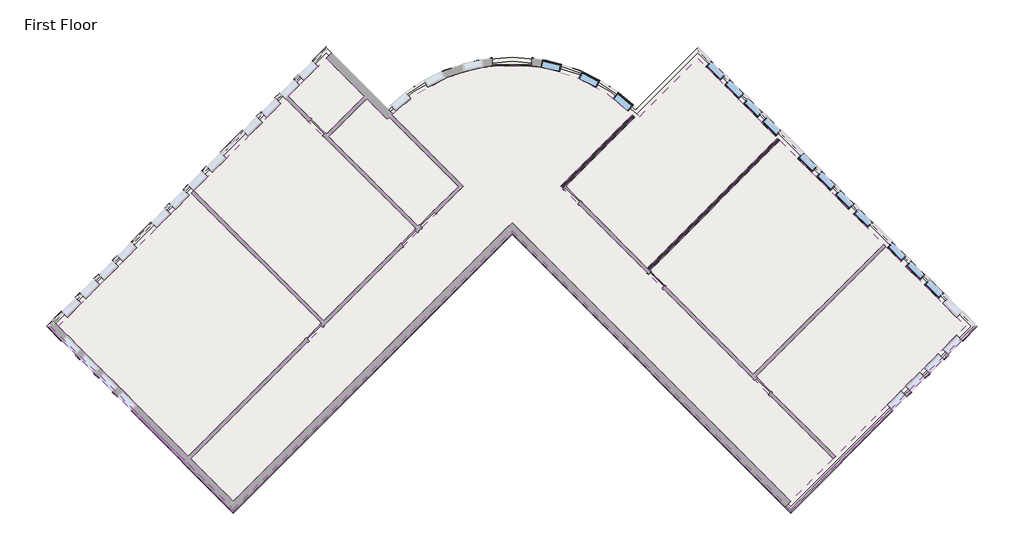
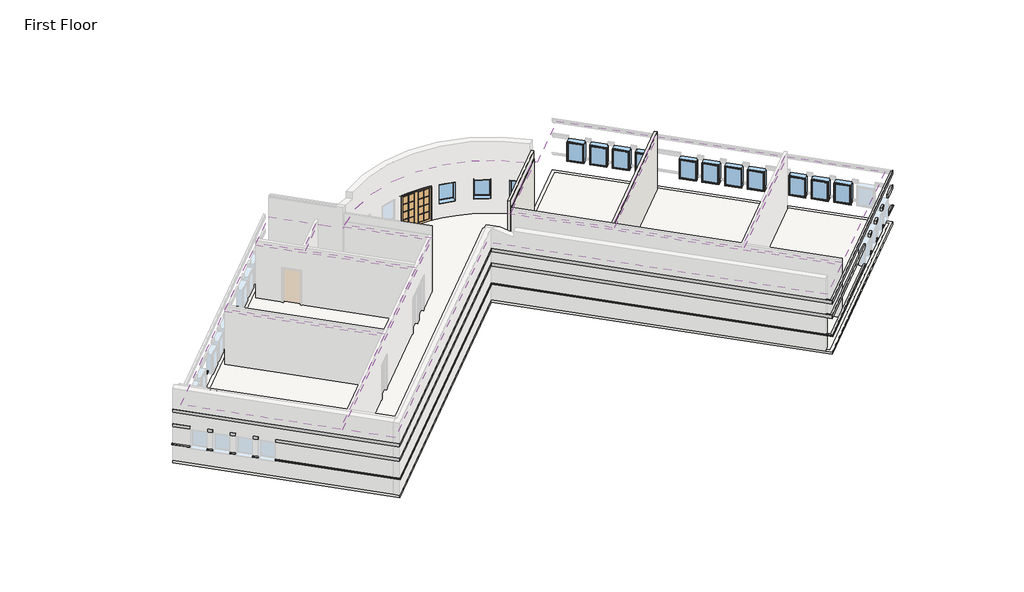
# One storey, part 3 of 4: 14 windows, 13 proxies, 8 coverings, 2 doors, 2 slabs, 2 walls.
"""IFC4 building model written with IfcOpenShell, lengths in millimetres."""

from ifc_helpers import new_model, si_unit, point, frame, frame_2d, origin, origin_with_axes, place, context, project, spatial, polyline, circle_curve, trimmed, segment, composite_curve, outline, extrude, faceted_brep, transform, mapped, element, save
from ifc_brep_helpers import plane_surface, cylinder_surface, advanced_brep
from components import door_0a477ef8, door_5f5b55da, window_15c49d37, window_0e2fc6ce

model = new_model("IFC4")

# Units and contexts
model_context = context("Model", 3, world=origin())
ifc_project = project(units=[si_unit("LENGTHUNIT", "METRE", prefix="MILLI")], contexts=[model_context])

# Site, building, storey
site = spatial("IfcSite", under=ifc_project)
building = spatial("IfcBuilding", under=site)
storey = spatial("IfcBuildingStorey", under=building, Name="First Floor", Elevation=0.0)

# Proxies
placement = place(None, origin())
element("IfcBuildingElementProxy", 1, Name="Wall Sweeps", at=placement, inside=storey, context=model_context, shape_type="Brep", body=[
    faceted_brep([(18554.3726125, -1357.9895101, 1085.85), (18684.5863263, -1357.9895101, 1085.85), (18733.9777349, -1357.9895101, 1041.4), (18733.9777349, -1357.9895101, 1016.0), (18554.3726125, -1357.9895101, 1016.0), (17956.0630484, -1956.2990742, 1085.85), (17956.0630484, -1956.2990742, 1016.0), (18021.1699053, -2021.405931, 1016.0), (18045.8656096, -2046.1016354, 1016.0), (18045.8656096, -2046.1016354, 1041.4), (18021.1699053, -2021.405931, 1085.85), (18370.277362, -1542.0847606, 1085.85), (18370.277362, -1542.0847606, 1016.0)], [[[0, 1, 2, 3, 4]], [[5, 6, 7, 8, 9, 10]], [[1, 0, 11, 5, 10]], [[2, 1, 10, 9]], [[3, 2, 9, 8]], [[4, 3, 8, 7, 6, 12]], [[0, 4, 12, 6, 5, 11]]]),
    faceted_brep([(17309.4846077, -2602.8775149, 1085.85), (17374.5914646, -2667.9843718, 1085.85), (17399.2871689, -2692.6800761, 1041.4), (17399.2871689, -2692.6800761, 1016.0), (17374.5914646, -2667.9843718, 1016.0), (17309.4846077, -2602.8775149, 1016.0), (17093.9584608, -2818.4036618, 1085.85), (17093.9584608, -2818.4036618, 1016.0), (17159.0653177, -2883.5105187, 1016.0), (17183.761022, -2908.206223, 1016.0), (17183.761022, -2908.206223, 1041.4), (17159.0653177, -2883.5105187, 1085.85)], [[[0, 1, 2, 3, 4, 5]], [[6, 7, 8, 9, 10, 11]], [[1, 0, 6, 11]], [[2, 1, 11, 10]], [[3, 2, 10, 9]], [[5, 4, 3, 9, 8, 7]], [[0, 5, 7, 6]]]),
    faceted_brep([(16447.3800201, -3464.9821025, 1085.85), (16512.486877, -3530.0889594, 1085.85), (16537.1825813, -3554.7846637, 1041.4), (16537.1825813, -3554.7846637, 1016.0), (16512.486877, -3530.0889594, 1016.0), (16447.3800201, -3464.9821025, 1016.0), (16231.8538732, -3680.5082494, 1085.85), (16231.8538732, -3680.5082494, 1016.0), (16296.9607301, -3745.6151063, 1016.0), (16321.6564344, -3770.3108106, 1016.0), (16321.6564344, -3770.3108106, 1041.4), (16296.9607301, -3745.6151063, 1085.85)], [[[0, 1, 2, 3, 4, 5]], [[6, 7, 8, 9, 10, 11]], [[1, 0, 6, 11]], [[2, 1, 11, 10]], [[3, 2, 10, 9]], [[5, 4, 3, 9, 8, 7]], [[0, 5, 7, 6]]]),
    faceted_brep([(15585.2754325, -4327.0866901, 1085.85), (15650.3822894, -4392.193547, 1085.85), (15675.0779937, -4416.8892513, 1041.4), (15675.0779937, -4416.8892513, 1016.0), (15650.3822894, -4392.193547, 1016.0), (15585.2754325, -4327.0866901, 1016.0), (15369.7492856, -4542.612837, 1085.85), (15369.7492856, -4542.612837, 1016.0), (15434.8561424, -4607.7196939, 1016.0), (15459.5518468, -4632.4153982, 1016.0), (15459.5518468, -4632.4153982, 1041.4), (15434.8561424, -4607.7196939, 1085.85)], [[[0, 1, 2, 3, 4, 5]], [[6, 7, 8, 9, 10, 11]], [[1, 0, 6, 11]], [[2, 1, 11, 10]], [[3, 2, 10, 9]], [[5, 4, 3, 9, 8, 7]], [[0, 5, 7, 6]]]),
    faceted_brep([(14723.1708449, -5189.1912777, 1085.85), (14788.2777017, -5254.2981346, 1085.85), (14812.9734061, -5278.993839, 1041.4), (14812.9734061, -5278.993839, 1016.0), (14788.2777017, -5254.2981346, 1016.0), (14723.1708449, -5189.1912777, 1016.0), (10063.54045, -9848.8216726, 1085.85), (10063.54045, -9848.8216726, 1016.0), (10063.54045, -10028.426795, 1016.0), (10063.54045, -10028.426795, 1041.4), (10063.54045, -9979.0353863, 1085.85)], [[[0, 1, 2, 3, 4, 5]], [[6, 7, 8, 9, 10]], [[1, 0, 6, 10]], [[2, 1, 10, 9]], [[3, 2, 9, 8]], [[5, 4, 3, 8, 7]], [[0, 5, 7, 6]]]),
])
element("IfcBuildingElementProxy", 2, Name="Wall Sweeps", at=placement, inside=storey, context=model_context, shape_type="Brep", body=[
    faceted_brep([(18684.5863263, -1357.9895101, 2336.8), (18684.5863263, -1357.9895101, 2133.6), (18554.3726125, -1357.9895101, 2133.6), (18554.3726125, -1357.9895101, 2336.8), (18021.1699053, -2021.405931, 2336.8), (17956.0630484, -1956.2990742, 2336.8), (17956.0630484, -1956.2990742, 2133.6), (18021.1699053, -2021.405931, 2133.6), (18435.3842189, -1607.1916175, 2336.8), (18435.3842189, -1607.1916175, 2133.6), (18370.277362, -1542.0847606, 2133.6), (18370.277362, -1542.0847606, 2336.8)], [[[0, 1, 2, 3]], [[4, 5, 6, 7]], [[1, 0, 8, 4, 7, 9]], [[2, 1, 9, 7, 6, 10]], [[3, 2, 10, 6, 5, 11]], [[0, 3, 11, 5, 4, 8]]]),
    faceted_brep([(17374.5914646, -2667.9843718, 2336.8), (17374.5914646, -2667.9843718, 2133.6), (17309.4846077, -2602.8775149, 2133.6), (17309.4846077, -2602.8775149, 2336.8), (17159.0653177, -2883.5105187, 2336.8), (17093.9584608, -2818.4036618, 2336.8), (17093.9584608, -2818.4036618, 2133.6), (17159.0653177, -2883.5105187, 2133.6)], [[[0, 1, 2, 3]], [[4, 5, 6, 7]], [[1, 0, 4, 7]], [[2, 1, 7, 6]], [[3, 2, 6, 5]], [[0, 3, 5, 4]]]),
    faceted_brep([(16512.486877, -3530.0889594, 2336.8), (16512.486877, -3530.0889594, 2133.6), (16447.3800201, -3464.9821025, 2133.6), (16447.3800201, -3464.9821025, 2336.8), (16296.9607301, -3745.6151063, 2336.8), (16231.8538732, -3680.5082494, 2336.8), (16231.8538732, -3680.5082494, 2133.6), (16296.9607301, -3745.6151063, 2133.6)], [[[0, 1, 2, 3]], [[4, 5, 6, 7]], [[1, 0, 4, 7]], [[2, 1, 7, 6]], [[3, 2, 6, 5]], [[0, 3, 5, 4]]]),
    faceted_brep([(15650.3822894, -4392.193547, 2336.8), (15650.3822894, -4392.193547, 2133.6), (15585.2754325, -4327.0866901, 2133.6), (15585.2754325, -4327.0866901, 2336.8), (15434.8561424, -4607.7196939, 2336.8), (15369.7492856, -4542.612837, 2336.8), (15369.7492856, -4542.612837, 2133.6), (15434.8561424, -4607.7196939, 2133.6)], [[[0, 1, 2, 3]], [[4, 5, 6, 7]], [[1, 0, 4, 7]], [[2, 1, 7, 6]], [[3, 2, 6, 5]], [[0, 3, 5, 4]]]),
    faceted_brep([(14788.2777017, -5254.2981346, 2336.8), (14788.2777017, -5254.2981346, 2133.6), (14723.1708449, -5189.1912777, 2133.6), (14723.1708449, -5189.1912777, 2336.8), (10063.54045, -9979.0353863, 2336.8), (10063.54045, -9848.8216726, 2336.8), (10063.54045, -9848.8216726, 2133.6), (10063.54045, -9979.0353863, 2133.6)], [[[0, 1, 2, 3]], [[4, 5, 6, 7]], [[1, 0, 4, 7]], [[2, 1, 7, 6]], [[3, 2, 6, 5]], [[0, 3, 5, 4]]]),
])
element("IfcBuildingElementProxy", 3, Name="Wall Sweeps", at=placement, inside=storey, context=model_context, shape_type="Brep", body=[
    faceted_brep([(18684.5863263, -1357.9895101, 3251.2), (18684.5863263, -1357.9895101, 3048.0), (18554.3726125, -1357.9895101, 3048.0), (18554.3726125, -1357.9895101, 3251.2), (10063.54045, -9979.0353863, 3251.2), (10063.54045, -9848.8216726, 3251.2), (10063.54045, -9848.8216726, 3048.0), (10063.54045, -9979.0353863, 3048.0), (18435.3842189, -1607.1916175, 3251.2), (18435.3842189, -1607.1916175, 3048.0), (18370.277362, -1542.0847606, 3048.0), (18370.277362, -1542.0847606, 3251.2)], [[[0, 1, 2, 3]], [[4, 5, 6, 7]], [[1, 0, 8, 4, 7, 9]], [[2, 1, 9, 7, 6, 10]], [[3, 2, 10, 6, 5, 11]], [[0, 3, 11, 5, 4, 8]]]),
])
element("IfcBuildingElementProxy", 4, Name="Wall Sweeps", at=placement, inside=storey, context=model_context, shape_type="Brep", body=[
    faceted_brep([(10063.54045, -9848.8216726, 1085.85), (10063.54045, -9979.0353863, 1085.85), (10063.54045, -10028.426795, 1041.4), (10063.54045, -10028.426795, 1016.0), (10063.54045, -9848.8216726, 1016.0), (-2868.0283643, 3082.7471418, 1085.85), (-2868.0283643, 3082.7471418, 1016.0), (-2868.0283643, 2903.1420194, 1016.0), (-2868.0283643, 2903.1420194, 1041.4), (-2868.0283643, 2952.533428, 1085.85), (9879.4451996, -9664.7264221, 1085.85), (9879.4451996, -9664.7264221, 1016.0)], [[[0, 1, 2, 3, 4]], [[5, 6, 7, 8, 9]], [[1, 0, 10, 5, 9]], [[2, 1, 9, 8]], [[3, 2, 8, 7]], [[4, 3, 7, 6, 11]], [[0, 4, 11, 6, 5, 10]]]),
])
element("IfcBuildingElementProxy", 5, Name="Wall Sweeps", at=placement, inside=storey, context=model_context, shape_type="Brep", body=[
    faceted_brep([(10063.54045, -9979.0353863, 2336.8), (10063.54045, -9979.0353863, 2133.6), (10063.54045, -9848.8216726, 2133.6), (10063.54045, -9848.8216726, 2336.8), (-2868.0283643, 2952.533428, 2336.8), (-2868.0283643, 3082.7471418, 2336.8), (-2868.0283643, 3082.7471418, 2133.6), (-2868.0283643, 2952.533428, 2133.6), (9814.3383427, -9729.833279, 2336.8), (9814.3383427, -9729.833279, 2133.6), (9879.4451996, -9664.7264221, 2133.6), (9879.4451996, -9664.7264221, 2336.8)], [[[0, 1, 2, 3]], [[4, 5, 6, 7]], [[1, 0, 8, 4, 7, 9]], [[2, 1, 9, 7, 6, 10]], [[3, 2, 10, 6, 5, 11]], [[0, 3, 11, 5, 4, 8]]]),
])
element("IfcBuildingElementProxy", 6, Name="Wall Sweeps", at=placement, inside=storey, context=model_context, shape_type="Brep", body=[
    faceted_brep([(10063.54045, -9979.0353863, 3251.2), (10063.54045, -9979.0353863, 3048.0), (10063.54045, -9848.8216726, 3048.0), (10063.54045, -9848.8216726, 3251.2), (-2868.0283643, 2952.533428, 3251.2), (-2868.0283643, 3082.7471418, 3251.2), (-2868.0283643, 3082.7471418, 3048.0), (-2868.0283643, 2952.533428, 3048.0), (9814.3383427, -9729.833279, 3251.2), (9814.3383427, -9729.833279, 3048.0), (9879.4451996, -9664.7264221, 3048.0), (9879.4451996, -9664.7264221, 3251.2)], [[[0, 1, 2, 3]], [[4, 5, 6, 7]], [[1, 0, 8, 4, 7, 9]], [[2, 1, 9, 7, 6, 10]], [[3, 2, 10, 6, 5, 11]], [[0, 3, 11, 5, 4, 8]]]),
])
element("IfcBuildingElementProxy", 7, Name="Wall Sweeps", at=placement, inside=storey, context=model_context, shape_type="Brep", body=[
    faceted_brep([(-2868.0283643, 3082.7471418, 1085.85), (-2868.0283643, 2952.533428, 1085.85), (-2868.0283643, 2903.1420194, 1041.4), (-2868.0283643, 2903.1420194, 1016.0), (-2868.0283643, 3082.7471418, 1016.0), (-15799.5971786, -9848.8216726, 1085.85), (-15799.5971786, -9848.8216726, 1016.0), (-15799.5971786, -10028.426795, 1016.0), (-15799.5971786, -10028.426795, 1041.4), (-15799.5971786, -9979.0353863, 1085.85), (-2933.1352212, 3017.6402849, 1085.85), (-2933.1352212, 3017.6402849, 1016.0)], [[[0, 1, 2, 3, 4]], [[5, 6, 7, 8, 9]], [[1, 0, 10, 5, 9]], [[2, 1, 9, 8]], [[3, 2, 8, 7]], [[4, 3, 7, 6, 11]], [[0, 4, 11, 6, 5, 10]]]),
])
element("IfcBuildingElementProxy", 8, Name="Wall Sweeps", at=placement, inside=storey, context=model_context, shape_type="Brep", body=[
    faceted_brep([(-2868.0283643, 2952.533428, 2336.8), (-2868.0283643, 2952.533428, 2133.6), (-2868.0283643, 3082.7471418, 2133.6), (-2868.0283643, 3082.7471418, 2336.8), (-15799.5971786, -9979.0353863, 2336.8), (-15799.5971786, -9848.8216726, 2336.8), (-15799.5971786, -9848.8216726, 2133.6), (-15799.5971786, -9979.0353863, 2133.6), (-2933.1352212, 3017.6402849, 2133.6), (-2933.1352212, 3017.6402849, 2336.8)], [[[0, 1, 2, 3]], [[4, 5, 6, 7]], [[1, 0, 4, 7]], [[2, 1, 7, 6, 8]], [[3, 2, 8, 6, 5, 9]], [[0, 3, 9, 5, 4]]]),
])
element("IfcBuildingElementProxy", 9, Name="Wall Sweeps", at=placement, inside=storey, context=model_context, shape_type="Brep", body=[
    faceted_brep([(-2868.0283643, 2952.533428, 3251.2), (-2868.0283643, 2952.533428, 3048.0), (-2868.0283643, 3082.7471418, 3048.0), (-2868.0283643, 3082.7471418, 3251.2), (-15799.5971786, -9979.0353863, 3251.2), (-15799.5971786, -9848.8216726, 3251.2), (-15799.5971786, -9848.8216726, 3048.0), (-15799.5971786, -9979.0353863, 3048.0), (-2933.1352212, 3017.6402849, 3048.0), (-2933.1352212, 3017.6402849, 3251.2)], [[[0, 1, 2, 3]], [[4, 5, 6, 7]], [[1, 0, 4, 7]], [[2, 1, 7, 6, 8]], [[3, 2, 8, 6, 5, 9]], [[0, 3, 9, 5, 4]]]),
])
element("IfcBuildingElementProxy", 10, Name="Wall Sweeps", at=placement, inside=storey, context=model_context, shape_type="Brep", body=[
    faceted_brep([(-15799.5971786, -9848.8216726, 1085.85), (-15799.5971786, -9979.0353863, 1085.85), (-15799.5971786, -10028.426795, 1041.4), (-15799.5971786, -10028.426795, 1016.0), (-15799.5971786, -9848.8216726, 1016.0), (-20459.2275735, -5189.1912777, 1085.85), (-20459.2275735, -5189.1912777, 1016.0), (-20524.3344303, -5254.2981346, 1016.0), (-20549.0301347, -5278.993839, 1016.0), (-20549.0301347, -5278.993839, 1041.4), (-20524.3344303, -5254.2981346, 1085.85), (-15983.6924291, -9664.7264221, 1085.85), (-15983.6924291, -9664.7264221, 1016.0)], [[[0, 1, 2, 3, 4]], [[5, 6, 7, 8, 9, 10]], [[1, 0, 11, 5, 10]], [[2, 1, 10, 9]], [[3, 2, 9, 8]], [[4, 3, 8, 7, 6, 12]], [[0, 4, 12, 6, 5, 11]]]),
    faceted_brep([(-21105.8060142, -4542.612837, 1085.85), (-21170.9128711, -4607.7196939, 1085.85), (-21195.6085754, -4632.4153982, 1041.4), (-21195.6085754, -4632.4153982, 1016.0), (-21170.9128711, -4607.7196939, 1016.0), (-21105.8060142, -4542.612837, 1016.0), (-21321.3321611, -4327.0866901, 1085.85), (-21321.3321611, -4327.0866901, 1016.0), (-21386.439018, -4392.193547, 1016.0), (-21411.1347223, -4416.8892513, 1016.0), (-21411.1347223, -4416.8892513, 1041.4), (-21386.439018, -4392.193547, 1085.85)], [[[0, 1, 2, 3, 4, 5]], [[6, 7, 8, 9, 10, 11]], [[1, 0, 6, 11]], [[2, 1, 11, 10]], [[3, 2, 10, 9]], [[5, 4, 3, 9, 8, 7]], [[0, 5, 7, 6]]]),
    faceted_brep([(-21967.9106018, -3680.5082494, 1085.85), (-22033.0174587, -3745.6151063, 1085.85), (-22057.713163, -3770.3108106, 1041.4), (-22057.713163, -3770.3108106, 1016.0), (-22033.0174587, -3745.6151063, 1016.0), (-21967.9106018, -3680.5082494, 1016.0), (-22183.4367487, -3464.9821025, 1085.85), (-22183.4367487, -3464.9821025, 1016.0), (-22248.5436056, -3530.0889594, 1016.0), (-22273.2393099, -3554.7846637, 1016.0), (-22273.2393099, -3554.7846637, 1041.4), (-22248.5436056, -3530.0889594, 1085.85)], [[[0, 1, 2, 3, 4, 5]], [[6, 7, 8, 9, 10, 11]], [[1, 0, 6, 11]], [[2, 1, 11, 10]], [[3, 2, 10, 9]], [[5, 4, 3, 9, 8, 7]], [[0, 5, 7, 6]]]),
    faceted_brep([(-22830.0151894, -2818.4036618, 1085.85), (-22895.1220463, -2883.5105187, 1085.85), (-22919.8177506, -2908.206223, 1041.4), (-22919.8177506, -2908.206223, 1016.0), (-22895.1220463, -2883.5105187, 1016.0), (-22830.0151894, -2818.4036618, 1016.0), (-23045.5413363, -2602.8775149, 1085.85), (-23045.5413363, -2602.8775149, 1016.0), (-23110.6481932, -2667.9843718, 1016.0), (-23135.3438975, -2692.6800761, 1016.0), (-23135.3438975, -2692.6800761, 1041.4), (-23110.6481932, -2667.9843718, 1085.85)], [[[0, 1, 2, 3, 4, 5]], [[6, 7, 8, 9, 10, 11]], [[1, 0, 6, 11]], [[2, 1, 11, 10]], [[3, 2, 10, 9]], [[5, 4, 3, 9, 8, 7]], [[0, 5, 7, 6]]]),
    faceted_brep([(-23692.119777, -1956.2990742, 1085.85), (-23757.2266339, -2021.405931, 1085.85), (-23781.9223383, -2046.1016354, 1041.4), (-23781.9223383, -2046.1016354, 1016.0), (-23757.2266339, -2021.405931, 1016.0), (-23692.119777, -1956.2990742, 1016.0), (-24290.4293411, -1357.9895101, 1085.85), (-24290.4293411, -1357.9895101, 1016.0), (-24470.0344635, -1357.9895101, 1016.0), (-24470.0344635, -1357.9895101, 1041.4), (-24420.6430549, -1357.9895101, 1085.85)], [[[0, 1, 2, 3, 4, 5]], [[6, 7, 8, 9, 10]], [[1, 0, 6, 10]], [[2, 1, 10, 9]], [[3, 2, 9, 8]], [[5, 4, 3, 8, 7]], [[0, 5, 7, 6]]]),
])
element("IfcBuildingElementProxy", 11, Name="Wall Sweeps", at=placement, inside=storey, context=model_context, shape_type="Brep", body=[
    faceted_brep([(-15799.5971786, -9979.0353863, 2336.8), (-15799.5971786, -9979.0353863, 2133.6), (-15799.5971786, -9848.8216726, 2133.6), (-15799.5971786, -9848.8216726, 2336.8), (-20524.3344303, -5254.2981346, 2336.8), (-20459.2275735, -5189.1912777, 2336.8), (-20459.2275735, -5189.1912777, 2133.6), (-20524.3344303, -5254.2981346, 2133.6), (-16048.799286, -9729.833279, 2336.8), (-16048.799286, -9729.833279, 2133.6), (-15983.6924291, -9664.7264221, 2133.6), (-15983.6924291, -9664.7264221, 2336.8)], [[[0, 1, 2, 3]], [[4, 5, 6, 7]], [[1, 0, 8, 4, 7, 9]], [[2, 1, 9, 7, 6, 10]], [[3, 2, 10, 6, 5, 11]], [[0, 3, 11, 5, 4, 8]]]),
    faceted_brep([(-21170.9128711, -4607.7196939, 2336.8), (-21170.9128711, -4607.7196939, 2133.6), (-21105.8060142, -4542.612837, 2133.6), (-21105.8060142, -4542.612837, 2336.8), (-21386.439018, -4392.193547, 2336.8), (-21321.3321611, -4327.0866901, 2336.8), (-21321.3321611, -4327.0866901, 2133.6), (-21386.439018, -4392.193547, 2133.6)], [[[0, 1, 2, 3]], [[4, 5, 6, 7]], [[1, 0, 4, 7]], [[2, 1, 7, 6]], [[3, 2, 6, 5]], [[0, 3, 5, 4]]]),
    faceted_brep([(-22033.0174587, -3745.6151063, 2336.8), (-22033.0174587, -3745.6151063, 2133.6), (-21967.9106018, -3680.5082494, 2133.6), (-21967.9106018, -3680.5082494, 2336.8), (-22248.5436056, -3530.0889594, 2336.8), (-22183.4367487, -3464.9821025, 2336.8), (-22183.4367487, -3464.9821025, 2133.6), (-22248.5436056, -3530.0889594, 2133.6)], [[[0, 1, 2, 3]], [[4, 5, 6, 7]], [[1, 0, 4, 7]], [[2, 1, 7, 6]], [[3, 2, 6, 5]], [[0, 3, 5, 4]]]),
    faceted_brep([(-22895.1220463, -2883.5105187, 2336.8), (-22895.1220463, -2883.5105187, 2133.6), (-22830.0151894, -2818.4036618, 2133.6), (-22830.0151894, -2818.4036618, 2336.8), (-23110.6481932, -2667.9843718, 2336.8), (-23045.5413363, -2602.8775149, 2336.8), (-23045.5413363, -2602.8775149, 2133.6), (-23110.6481932, -2667.9843718, 2133.6)], [[[0, 1, 2, 3]], [[4, 5, 6, 7]], [[1, 0, 4, 7]], [[2, 1, 7, 6]], [[3, 2, 6, 5]], [[0, 3, 5, 4]]]),
    faceted_brep([(-23757.2266339, -2021.405931, 2336.8), (-23757.2266339, -2021.405931, 2133.6), (-23692.119777, -1956.2990742, 2133.6), (-23692.119777, -1956.2990742, 2336.8), (-24420.6430549, -1357.9895101, 2336.8), (-24290.4293411, -1357.9895101, 2336.8), (-24290.4293411, -1357.9895101, 2133.6), (-24420.6430549, -1357.9895101, 2133.6)], [[[0, 1, 2, 3]], [[4, 5, 6, 7]], [[1, 0, 4, 7]], [[2, 1, 7, 6]], [[3, 2, 6, 5]], [[0, 3, 5, 4]]]),
])
element("IfcBuildingElementProxy", 12, Name="Wall Sweeps", at=placement, inside=storey, context=model_context, shape_type="Brep", body=[
    faceted_brep([(-15799.5971786, -9979.0353863, 3251.2), (-15799.5971786, -9979.0353863, 3048.0), (-15799.5971786, -9848.8216726, 3048.0), (-15799.5971786, -9848.8216726, 3251.2), (-24420.6430549, -1357.9895101, 3251.2), (-24290.4293411, -1357.9895101, 3251.2), (-24290.4293411, -1357.9895101, 3048.0), (-24420.6430549, -1357.9895101, 3048.0), (-16048.799286, -9729.833279, 3251.2), (-16048.799286, -9729.833279, 3048.0), (-15983.6924291, -9664.7264221, 3048.0), (-15983.6924291, -9664.7264221, 3251.2)], [[[0, 1, 2, 3]], [[4, 5, 6, 7]], [[1, 0, 8, 4, 7, 9]], [[2, 1, 9, 7, 6, 10]], [[3, 2, 10, 6, 5, 11]], [[0, 3, 11, 5, 4, 8]]]),
])
element("IfcBuildingElementProxy", 13, Name="Wall Sweeps", at=placement, inside=storey, context=model_context, shape_type="Brep", body=[
    faceted_brep([(-24290.4293411, -1357.9895101, 1085.85), (-24420.6430549, -1357.9895101, 1085.85), (-24470.0344635, -1357.9895101, 1041.4), (-24470.0344635, -1357.9895101, 1016.0), (-24290.4293411, -1357.9895101, 1016.0), (-23692.119777, -759.679946, 1085.85), (-23692.119777, -759.679946, 1016.0), (-23757.2266339, -694.5730891, 1016.0), (-23781.9223383, -669.8773848, 1016.0), (-23781.9223383, -669.8773848, 1041.4), (-23757.2266339, -694.5730891, 1085.85), (-24106.3340906, -1173.8942596, 1085.85), (-24106.3340906, -1173.8942596, 1016.0)], [[[0, 1, 2, 3, 4]], [[5, 6, 7, 8, 9, 10]], [[1, 0, 11, 5, 10]], [[2, 1, 10, 9]], [[3, 2, 9, 8]], [[4, 3, 8, 7, 6, 12]], [[0, 4, 12, 6, 5, 11]]]),
    faceted_brep([(-23045.5413363, -113.1015053, 1085.85), (-23110.6481932, -47.9946484, 1085.85), (-23135.3438975, -23.2989441, 1041.4), (-23135.3438975, -23.2989441, 1016.0), (-23110.6481932, -47.9946484, 1016.0), (-23045.5413363, -113.1015053, 1016.0), (-22830.0151894, 102.4246416, 1085.85), (-22830.0151894, 102.4246416, 1016.0), (-22895.1220463, 167.5314985, 1016.0), (-22919.8177506, 192.2272028, 1016.0), (-22919.8177506, 192.2272028, 1041.4), (-22895.1220463, 167.5314985, 1085.85)], [[[0, 1, 2, 3, 4, 5]], [[6, 7, 8, 9, 10, 11]], [[1, 0, 6, 11]], [[2, 1, 11, 10]], [[3, 2, 10, 9]], [[5, 4, 3, 9, 8, 7]], [[0, 5, 7, 6]]]),
    faceted_brep([(-22183.4367487, 749.0030823, 1085.85), (-22248.5436056, 814.1099392, 1085.85), (-22273.2393099, 838.8056435, 1041.4), (-22273.2393099, 838.8056435, 1016.0), (-22248.5436056, 814.1099392, 1016.0), (-22183.4367487, 749.0030823, 1016.0), (-21967.9106018, 964.5292292, 1085.85), (-21967.9106018, 964.5292292, 1016.0), (-22033.0174587, 1029.6360861, 1016.0), (-22057.713163, 1054.3317904, 1016.0), (-22057.713163, 1054.3317904, 1041.4), (-22033.0174587, 1029.6360861, 1085.85)], [[[0, 1, 2, 3, 4, 5]], [[6, 7, 8, 9, 10, 11]], [[1, 0, 6, 11]], [[2, 1, 11, 10]], [[3, 2, 10, 9]], [[5, 4, 3, 9, 8, 7]], [[0, 5, 7, 6]]]),
    faceted_brep([(-21321.3321611, 1611.1076699, 1085.85), (-21386.439018, 1676.2145268, 1085.85), (-21411.1347223, 1700.9102311, 1041.4), (-21411.1347223, 1700.9102311, 1016.0), (-21386.439018, 1676.2145268, 1016.0), (-21321.3321611, 1611.1076699, 1016.0), (-21105.8060142, 1826.6338168, 1085.85), (-21105.8060142, 1826.6338168, 1016.0), (-21170.9128711, 1891.7406737, 1016.0), (-21195.6085754, 1916.4363781, 1016.0), (-21195.6085754, 1916.4363781, 1041.4), (-21170.9128711, 1891.7406737, 1085.85)], [[[0, 1, 2, 3, 4, 5]], [[6, 7, 8, 9, 10, 11]], [[1, 0, 6, 11]], [[2, 1, 11, 10]], [[3, 2, 10, 9]], [[5, 4, 3, 9, 8, 7]], [[0, 5, 7, 6]]]),
    faceted_brep([(-20459.2275735, 2473.2122576, 1085.85), (-20524.3344303, 2538.3191144, 1085.85), (-20549.0301347, 2563.0148188, 1041.4), (-20549.0301347, 2563.0148188, 1016.0), (-20524.3344303, 2538.3191144, 1016.0), (-20459.2275735, 2473.2122576, 1016.0), (-19543.7128733, 3388.7269578, 1085.85), (-19543.7128733, 3388.7269578, 1016.0), (-19608.8197301, 3453.8338146, 1016.0), (-19633.5154345, 3478.529519, 1016.0), (-19633.5154345, 3478.529519, 1041.4), (-19608.8197301, 3453.8338146, 1085.85)], [[[0, 1, 2, 3, 4, 5]], [[6, 7, 8, 9, 10, 11]], [[1, 0, 6, 11]], [[2, 1, 11, 10]], [[3, 2, 10, 9]], [[5, 4, 3, 9, 8, 7]], [[0, 5, 7, 6]]]),
    faceted_brep([(-18897.1344326, 4035.3053985, 1085.85), (-18962.2412894, 4100.4122553, 1085.85), (-18986.9369938, 4125.1079597, 1041.4), (-18986.9369938, 4125.1079597, 1016.0), (-18962.2412894, 4100.4122553, 1016.0), (-18897.1344326, 4035.3053985, 1016.0), (-18681.6082856, 4250.8315454, 1085.85), (-18681.6082856, 4250.8315454, 1016.0), (-18746.7151425, 4315.9384023, 1016.0), (-18771.4108469, 4340.6341066, 1016.0), (-18771.4108469, 4340.6341066, 1041.4), (-18746.7151425, 4315.9384023, 1085.85)], [[[0, 1, 2, 3, 4, 5]], [[6, 7, 8, 9, 10, 11]], [[1, 0, 6, 11]], [[2, 1, 11, 10]], [[3, 2, 10, 9]], [[5, 4, 3, 9, 8, 7]], [[0, 5, 7, 6]]]),
    faceted_brep([(-18035.0298449, 4897.4099861, 1085.85), (-18100.1367018, 4962.516843, 1085.85), (-18124.8324061, 4987.2125473, 1041.4), (-18124.8324061, 4987.2125473, 1016.0), (-18100.1367018, 4962.516843, 1016.0), (-18035.0298449, 4897.4099861, 1016.0), (-17819.503698, 5112.936133, 1085.85), (-17819.503698, 5112.936133, 1016.0), (-17884.6105549, 5178.0429899, 1016.0), (-17909.3062592, 5202.7386942, 1016.0), (-17909.3062592, 5202.7386942, 1041.4), (-17884.6105549, 5178.0429899, 1085.85)], [[[0, 1, 2, 3, 4, 5]], [[6, 7, 8, 9, 10, 11]], [[1, 0, 6, 11]], [[2, 1, 11, 10]], [[3, 2, 10, 9]], [[5, 4, 3, 9, 8, 7]], [[0, 5, 7, 6]]]),
    faceted_brep([(-17172.9252573, 5759.5145737, 1085.85), (-17238.0321142, 5824.6214306, 1085.85), (-17262.7278185, 5849.3171349, 1041.4), (-17262.7278185, 5849.3171349, 1016.0), (-17238.0321142, 5824.6214306, 1016.0), (-17172.9252573, 5759.5145737, 1016.0), (-16957.3991104, 5975.0407206, 1085.85), (-16957.3991104, 5975.0407206, 1016.0), (-17022.5059673, 6040.1475775, 1016.0), (-17047.2016716, 6064.8432818, 1016.0), (-17047.2016716, 6064.8432818, 1041.4), (-17022.5059673, 6040.1475775, 1085.85)], [[[0, 1, 2, 3, 4, 5]], [[6, 7, 8, 9, 10, 11]], [[1, 0, 6, 11]], [[2, 1, 11, 10]], [[3, 2, 10, 9]], [[5, 4, 3, 9, 8, 7]], [[0, 5, 7, 6]]]),
    faceted_brep([(-16310.8206697, 6621.6191613, 1085.85), (-16375.9275266, 6686.7260182, 1085.85), (-16400.6232309, 6711.4217225, 1041.4), (-16400.6232309, 6711.4217225, 1016.0), (-16375.9275266, 6686.7260182, 1016.0), (-16310.8206697, 6621.6191613, 1016.0), (-15286.3644832, 7646.0753478, 1085.85), (-15286.3644832, 7646.0753478, 1016.0), (-15351.4713401, 7711.1822047, 1016.0), (-15376.1670444, 7735.877909, 1016.0), (-15376.1670444, 7735.877909, 1041.4), (-15351.4713401, 7711.1822047, 1085.85)], [[[0, 1, 2, 3, 4, 5]], [[6, 7, 8, 9, 10, 11]], [[1, 0, 6, 11]], [[2, 1, 11, 10]], [[3, 2, 10, 9]], [[5, 4, 3, 9, 8, 7]], [[0, 5, 7, 6]]]),
    faceted_brep([(-14639.7860425, 8292.6537886, 1085.85), (-14704.8928993, 8357.7606454, 1085.85), (-14729.5886037, 8382.4563498, 1041.4), (-14729.5886037, 8382.4563498, 1016.0), (-14704.8928993, 8357.7606454, 1016.0), (-14639.7860425, 8292.6537886, 1016.0), (-14424.2598956, 8508.1799355, 1085.85), (-14424.2598956, 8508.1799355, 1016.0), (-14489.3667524, 8573.2867923, 1016.0), (-14514.0624568, 8597.9824967, 1016.0), (-14514.0624568, 8597.9824967, 1041.4), (-14489.3667524, 8573.2867923, 1085.85)], [[[0, 1, 2, 3, 4, 5]], [[6, 7, 8, 9, 10, 11]], [[1, 0, 6, 11]], [[2, 1, 11, 10]], [[3, 2, 10, 9]], [[5, 4, 3, 9, 8, 7]], [[0, 5, 7, 6]]]),
    faceted_brep([(-13777.6814548, 9154.7583762, 1085.85), (-13842.7883117, 9219.8652331, 1085.85), (-13867.4840161, 9244.5609374, 1041.4), (-13867.4840161, 9244.5609374, 1016.0), (-13842.7883117, 9219.8652331, 1016.0), (-13777.6814548, 9154.7583762, 1016.0), (-13562.1553079, 9370.2845231, 1085.85), (-13562.1553079, 9370.2845231, 1016.0), (-13627.2621648, 9435.39138, 1016.0), (-13651.9578691, 9460.0870843, 1016.0), (-13651.9578691, 9460.0870843, 1041.4), (-13627.2621648, 9435.39138, 1085.85)], [[[0, 1, 2, 3, 4, 5]], [[6, 7, 8, 9, 10, 11]], [[1, 0, 6, 11]], [[2, 1, 11, 10]], [[3, 2, 10, 9]], [[5, 4, 3, 9, 8, 7]], [[0, 5, 7, 6]]]),
    faceted_brep([(-12915.5768672, 10016.8629638, 1085.85), (-12980.6837241, 10081.9698207, 1085.85), (-13005.3794284, 10106.665525, 1041.4), (-13005.3794284, 10106.665525, 1016.0), (-12980.6837241, 10081.9698207, 1016.0), (-12915.5768672, 10016.8629638, 1016.0), (-12700.0507203, 10232.3891107, 1085.85), (-12700.0507203, 10232.3891107, 1016.0), (-12765.1575772, 10297.4959676, 1016.0), (-12789.8532815, 10322.1916719, 1016.0), (-12789.8532815, 10322.1916719, 1041.4), (-12765.1575772, 10297.4959676, 1085.85)], [[[0, 1, 2, 3, 4, 5]], [[6, 7, 8, 9, 10, 11]], [[1, 0, 6, 11]], [[2, 1, 11, 10]], [[3, 2, 10, 9]], [[5, 4, 3, 9, 8, 7]], [[0, 5, 7, 6]]]),
    faceted_brep([(-12053.4722796, 10878.9675514, 1085.85), (-12118.5791365, 10944.0744083, 1085.85), (-12143.2748408, 10968.7701126, 1041.4), (-12143.2748408, 10968.7701126, 1016.0), (-12118.5791365, 10944.0744083, 1016.0), (-12053.4722796, 10878.9675514, 1016.0), (-11489.0742405, 11443.3655905, 1085.85), (-11489.0742405, 11443.3655905, 1016.0), (-11489.0742405, 11622.9707129, 1016.0), (-11489.0742405, 11622.9707129, 1041.4), (-11489.0742405, 11573.5793042, 1085.85)], [[[0, 1, 2, 3, 4, 5]], [[6, 7, 8, 9, 10]], [[1, 0, 6, 10]], [[2, 1, 10, 9]], [[3, 2, 9, 8]], [[5, 4, 3, 8, 7]], [[0, 5, 7, 6]]]),
])

# Coverings
element("IfcCovering", 14, ObjectType="2' x 2' ACT System", at=placement, inside=storey, context=model_context, shape_type="SweptSolid", body=[
    extrude(outline(polyline([(-11706.7276692, -1216.4326939), (-17885.2616628, -7394.9666875), (-23922.2388402, -1357.9895101), (-17743.7048466, 4820.5444835), (-11706.7276692, -1216.4326939)])), frame((0.0, 0.0, 3352.8), z_axis=(0.0, 0.0, 1.0), x_axis=(1.0, 0.0, 0.0)), (0.0, 0.0, 1.0), 57.15),
])
element("IfcCovering", 15, ObjectType="2' x 2' ACT System", at=placement, inside=storey, context=model_context, shape_type="SweptSolid", body=[
    extrude(outline(polyline([(-17633.6967091, 4930.552621), (-13359.2125777, 9205.0367523), (-7322.2354004, 3168.0595749), (-11596.7195317, -1106.4245564), (-17633.6967091, 4930.552621)])), frame((0.0, 0.0, 3352.8), z_axis=(0.0, 0.0, 1.0), x_axis=(1.0, 0.0, 0.0)), (0.0, 0.0, 1.0), 57.15),
])
element("IfcCovering", 16, ObjectType="2' x 2' ACT System", at=placement, inside=storey, context=model_context, shape_type="SweptSolid", body=[
    extrude(outline(polyline([(-13249.2044403, 9315.0448898), (-11489.0742405, 11075.1750895), (-9728.9440408, 9315.0448898), (-11489.0742405, 7554.9146901), (-13249.2044403, 9315.0448898)])), frame((0.0, 0.0, 3352.8), z_axis=(0.0, 0.0, 1.0), x_axis=(1.0, 0.0, 0.0)), (0.0, 0.0, 1.0), 57.15),
])
element("IfcCovering", 17, ObjectType="2' x 2' ACT System", at=placement, inside=storey, context=model_context, shape_type="SweptSolid", body=[
    extrude(outline(composite_curve([segment(polyline([(-607.4844504, 5141.7064221), (12039.1967967, -7504.974825), (10063.54045, -9480.6311716), (-2868.0283643, 3450.9376427), (-15799.5971786, -9480.6311716), (-17775.2535253, -7504.974825), (-5128.5722782, 5141.7064221), (-8449.0111375, 8462.1452813)]), True, "CONTINUOUS"), segment(trimmed(circle_curve(frame_2d((-2868.0283643, 2903.1420194)), 7877.175), [point((-8449.0111375, 8462.1452813))], [point((2712.9544089, 8462.1452813))], False, "CARTESIAN"), True, "CONTINUOUS"), segment(polyline([(2712.9544089, 8462.1452813), (-607.4844504, 5141.7064221)]), True, "CONTINUOUS")], self_intersect=False)), frame((0.0, 0.0, 3352.8), z_axis=(0.0, 0.0, 1.0), x_axis=(1.0, 0.0, 0.0)), (0.0, 0.0, 1.0), 57.15),
])
element("IfcCovering", 18, ObjectType="2' x 2' ACT System", at=placement, inside=storey, context=model_context, shape_type="SweptSolid", body=[
    extrude(outline(polyline([(2946.6980114, 8475.8726089), (3050.2065213, 8372.3640989), (5753.0175119, 11075.1750895), (9452.8830338, 7375.3095676), (3415.9058564, 1338.3323903), (-387.4681754, 5141.7064221), (2946.6980114, 8475.8726089)])), frame((0.0, 0.0, 3352.8), z_axis=(0.0, 0.0, 1.0), x_axis=(1.0, 0.0, 0.0)), (0.0, 0.0, 1.0), 57.15),
])
element("IfcCovering", 19, ObjectType="2' x 2' ACT System", at=placement, inside=storey, context=model_context, shape_type="SweptSolid", body=[
    extrude(outline(polyline([(3525.9139939, 1228.3242528), (9562.8911713, 7265.3014302), (14376.3084522, 2451.8841493), (8339.3312748, -3585.0930281), (3525.9139939, 1228.3242528)])), frame((0.0, 0.0, 3352.8), z_axis=(0.0, 0.0, 1.0), x_axis=(1.0, 0.0, 0.0)), (0.0, 0.0, 1.0), 57.15),
])
element("IfcCovering", 20, ObjectType="2' x 2' ACT System", at=placement, inside=storey, context=model_context, shape_type="SweptSolid", body=[
    extrude(outline(polyline([(8449.3394123, -3695.1011656), (14486.3165897, 2341.8760118), (18186.1821115, -1357.9895101), (12149.2049342, -7394.9666875), (8449.3394123, -3695.1011656)])), frame((0.0, 0.0, 3352.8), z_axis=(0.0, 0.0, 1.0), x_axis=(1.0, 0.0, 0.0)), (0.0, 0.0, 1.0), 57.15),
])
element("IfcCovering", 21, ObjectType="2' x 2' ACT System", at=placement, inside=storey, context=model_context, shape_type="SweptSolid", body=[
    extrude(outline(polyline([(-11379.066103, 7444.9065526), (-9618.9359033, 9205.0367523), (-8661.2242451, 8247.3250941), (-8557.7157352, 8350.8336041), (-5348.5885532, 5141.7064221), (-7212.2272629, 3278.0677124), (-11379.066103, 7444.9065526)])), frame((0.0, 0.0, 3352.8), z_axis=(0.0, 0.0, 1.0), x_axis=(1.0, 0.0, 0.0)), (0.0, 0.0, 1.0), 57.15),
])

# Doors
door_shape = door_0a477ef8(model_context)
element("IfcDoor", 22, ObjectType="Double-Glass 2 : 72\" x 84\"", at=placement, inside=storey, context=model_context, shape_type="MappedRepresentation", body=[
    mapped(door_shape, transform((-2868.7603243, 10905.5717204, 0.0), x_axis=(-0.9999999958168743, -9.146721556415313e-05, 0.0), y_axis=(9.146721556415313e-05, -0.9999999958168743, 0.0), z_axis=(0.0, 0.0, 1.0))),
])
door_2_shape = door_5f5b55da(model_context)
element("IfcDoor", 23, ObjectType="Single-Glass 1 : 36\" x 84\"", at=placement, inside=storey, context=model_context, shape_type="MappedRepresentation", body=[
    mapped(door_2_shape, transform((3846.9581502, 797.271959, 0.0), x_axis=(-0.7071067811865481, 0.7071067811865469, 0.0), y_axis=(-0.7071067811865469, -0.7071067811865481, 0.0), z_axis=(0.0, 0.0, 1.0))),
])

# Slabs
element("IfcSlab", 24, ObjectType="4\" Concrete Slab", at=placement, inside=storey, context=model_context, shape_type="SweptSolid", body=[
    extrude(outline(composite_curve([segment(polyline([(-11489.0742405, 11308.6617487), (-8661.5174871, 8481.1049952)]), True, "CONTINUOUS"), segment(trimmed(circle_curve(frame_2d((-2868.0283643, 2903.1420194)), 8042.275), [point((-8661.5174871, 8481.1049952))], [point((2925.4607585, 8481.1049952))], False, "CARTESIAN"), True, "CONTINUOUS"), segment(polyline([(2925.4607585, 8481.1049952), (5753.0175119, 11308.6617487), (18419.6687707, -1357.9895101), (10063.54045, -9714.1178307), (-2868.0283643, 3217.4509836), (-15799.5971786, -9714.1178307), (-24155.7254993, -1357.9895101), (-11489.0742405, 11308.6617487)]), True, "CONTINUOUS")], self_intersect=False)), frame((0.0, 0.0, -101.6), z_axis=(0.0, 0.0, 1.0), x_axis=(1.0, 0.0, 0.0)), (0.0, 0.0, 1.0), 101.6),
])
element("IfcSlab", 25, ObjectType="LW Concrete on Metal Deck", at=placement, inside=storey, context=model_context, shape_type="SweptSolid", body=[
    extrude(outline(composite_curve([segment(polyline([(2926.4294954, 8746.9912878), (5753.0175119, 11573.5793042), (18684.5863263, -1357.9895101), (10063.54045, -9979.0353863), (-2868.0283643, 2952.533428), (-15799.5971786, -9979.0353863), (-24420.6430549, -1357.9895101), (-11489.0742405, 11573.5793042), (-8662.486224, 8746.9912878)]), True, "CONTINUOUS"), segment(trimmed(circle_curve(frame_2d((-2868.0283643, 2903.1420194)), 8229.6), [point((-8662.486224, 8746.9912878))], [point((2926.4294954, 8746.9912878))], False, "CARTESIAN"), True, "CONTINUOUS")], self_intersect=False)), frame((0.0, 0.0, -139.7), z_axis=(0.0, 0.0, 1.0), x_axis=(1.0, 0.0, 0.0)), (0.0, 0.0, 1.0), 139.7),
])

# Walls
element("IfcWall", 26, ObjectType="Interior - 6 1/8\" Partition (2-hr)", at=placement, inside=storey, context=model_context, shape_type="AdvancedBrep", body=[
    advanced_brep(
    [(-497.4763129, 5031.6982846, 0.0), (-387.4681754, 5141.7064221, 0.0), (2821.6590066, 8350.8336041, 0.0), (2821.6590066, 8350.8336041, 3657.6), (-387.4681754, 5141.7064221, 3657.6), (-497.4763129, 5031.6982846, 3657.6), (-607.4844504, 5141.7064221, 0.0), (-607.4844504, 5141.7064221, 4165.6), (2712.9544089, 8462.1452813, 4165.6), (2712.9544089, 8462.1452813, 0.0), (-518.5688566, 5052.7908283, 3657.6), (-518.5688566, 5052.7908283, 4165.6), (2800.9848051, 8372.3444901, 4165.6), (2800.9848051, 8372.3444901, 3657.6)],
    [
        (0, 1),
        (1, 2),
        (2, 3),
        (3, 4),
        (4, 5),
        (5, 0),
        (6, 7),
        (7, 8),
        (8, 9),
        (9, 6),
        (0, 6),
        (9, 2, circle_curve(frame((-2868.0283643, 2903.1420194, 0.0), z_axis=(0.0, 0.0, -1.0), x_axis=(1.0, 0.0, 0.0)), 7877.175)),
        (5, 10),
        (10, 11),
        (11, 7),
        (8, 12, circle_curve(frame((-2868.0283643, 2903.1420194, 4165.6), z_axis=(0.0, 0.0, -1.0), x_axis=(1.0, 0.0, 0.0)), 7877.175)),
        (12, 13),
        (13, 3, circle_curve(frame((-2868.0283643, 2903.1420194, 3657.6), z_axis=(0.0, 0.0, -1.0), x_axis=(1.0, 0.0, 0.0)), 7877.175)),
        (13, 10),
        (12, 11),
    ],
    [
        plane_surface(frame((-442.4722441, 5086.7023533, 0.0), z_axis=(0.7071067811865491, -0.7071067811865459, 0.0), x_axis=(0.7071067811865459, 0.7071067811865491, 0.0))),
        plane_surface(frame((-552.4803816, 5196.7104908, 0.0), z_axis=(-0.7071067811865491, 0.7071067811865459, 0.0), x_axis=(-0.7071067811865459, -0.7071067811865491, 0.0))),
        plane_surface(frame((-442.4722441, 5086.7023533, 0.0), z_axis=(0.0, 0.0, -1.0), x_axis=(-0.707106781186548, 0.7071067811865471, 0.0))),
        plane_surface(frame((12163.7978503, -7629.5758786, 0.0), z_axis=(-0.7071067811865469, -0.7071067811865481, 0.0), x_axis=(0.7071067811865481, -0.7071067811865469, 0.0))),
        cylinder_surface(frame((-2868.0283643, 2903.1420194, 0.0), z_axis=(0.0, 0.0, -1.0), x_axis=(1.0, 0.0, 0.0)), 7877.175),
        plane_surface(frame((2947.192033, 8476.3666305, 3657.6), z_axis=(0.0, 0.0, 1.0000000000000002), x_axis=(-0.7071067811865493, 0.7071067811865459, 0.0))),
        plane_surface(frame((-2868.0283643, 2703.3313207, 4572.0), z_axis=(0.7071067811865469, -0.7071067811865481, 0.0), x_axis=(0.7071067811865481, 0.7071067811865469, 0.0))),
        plane_surface(frame((-2868.0283643, 2903.1420194, 4165.6), z_axis=(0.0, 0.0, 1.0), x_axis=(1.0, 0.0, 0.0))),
    ],
    [
        (0, [[1, 2, 3, 4, 5, 6]]),
        (1, [[7, 8, 9, 10]]),
        (2, [[-2, -1, 11, -10, 12]]),
        (3, [[-6, 13, 14, 15, -7, -11]]),
        (4, [[-3, -12, -9, 16, 17, 18]]),
        (5, [[-5, -4, -18, 19, -13]]),
        (6, [[-19, -17, 20, -14]]),
        (7, [[-16, -8, -15, -20]]),
    ],
),
])
element("IfcWall", 27, ObjectType="Interior - 6 1/8\" Partition (2-hr)", at=placement, inside=storey, context=model_context, shape_type="SweptSolid", body=[
    extrude(outline(polyline([(3415.9058564, 1338.3323903), (9452.8830338, 7375.3095676), (9562.8911713, 7265.3014302), (3525.9139939, 1228.3242528), (3415.9058564, 1338.3323903)])), origin_with_axes(), (0.0, 0.0, 1.0), 3657.6),
])

# Windows
window_shape = window_15c49d37(model_context)
element("IfcWindow", 28, ObjectType="Fixed : 36\" x 48\"", at=placement, inside=storey, context=model_context, shape_type="MappedRepresentation", body=[
    mapped(window_shape, transform((6554.2698062, 10523.1249026, 0.0), x_axis=(-0.7071067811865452, 0.7071067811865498, 0.0), y_axis=(-0.7071067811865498, -0.7071067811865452, 0.0), z_axis=(0.0, 0.0, 1.0))),
])
element("IfcWindow", 29, ObjectType="Fixed : 36\" x 48\"", at=placement, inside=storey, context=model_context, shape_type="MappedRepresentation", body=[
    mapped(window_shape, transform((7416.3743938, 9661.020315, 0.0), x_axis=(-0.7071067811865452, 0.7071067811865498, 0.0), y_axis=(-0.7071067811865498, -0.7071067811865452, 0.0), z_axis=(0.0, 0.0, 1.0))),
])
element("IfcWindow", 30, ObjectType="Fixed : 36\" x 48\"", at=placement, inside=storey, context=model_context, shape_type="MappedRepresentation", body=[
    mapped(window_shape, transform((8278.4789814, 8798.9157274, 0.0), x_axis=(-0.7071067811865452, 0.7071067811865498, 0.0), y_axis=(-0.7071067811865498, -0.7071067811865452, 0.0), z_axis=(0.0, 0.0, 1.0))),
])
element("IfcWindow", 31, ObjectType="Fixed : 36\" x 48\"", at=placement, inside=storey, context=model_context, shape_type="MappedRepresentation", body=[
    mapped(window_shape, transform((9140.583569, 7936.8111398, 0.0), x_axis=(-0.7071067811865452, 0.7071067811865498, 0.0), y_axis=(-0.7071067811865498, -0.7071067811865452, 0.0), z_axis=(0.0, 0.0, 1.0))),
])
window_2_shape = window_0e2fc6ce(model_context)
element("IfcWindow", 32, ObjectType="Fixed : 36\" x 48\"", at=placement, inside=storey, context=model_context, shape_type="MappedRepresentation", body=[
    mapped(window_2_shape, transform((2271.4327875, 9086.2422995, 0.0), x_axis=(-0.765985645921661, 0.642857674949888, 0.0), y_axis=(-0.642857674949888, -0.765985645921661, 0.0), z_axis=(0.0, 0.0, 1.0))),
])
element("IfcWindow", 33, ObjectType="Fixed : 36\" x 48\"", at=placement, inside=storey, context=model_context, shape_type="MappedRepresentation", body=[
    mapped(window_2_shape, transform((-1095.8037333, 10745.5912454, 0.0), x_axis=(-0.9743494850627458, 0.2250401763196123, 0.0), y_axis=(-0.2250401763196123, -0.9743494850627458, 0.0), z_axis=(0.0, 0.0, 1.0))),
])
element("IfcWindow", 34, ObjectType="Fixed : 36\" x 48\"", at=placement, inside=storey, context=model_context, shape_type="MappedRepresentation", body=[
    mapped(window_2_shape, transform((686.0129721, 10115.1861252, 0.0), x_axis=(-0.8948935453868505, 0.44627966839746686, 0.0), y_axis=(-0.44627966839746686, -0.8948935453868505, 0.0), z_axis=(0.0, 0.0, 1.0))),
])
element("IfcWindow", 35, ObjectType="Fixed : 36\" x 48\"", at=placement, inside=storey, context=model_context, shape_type="MappedRepresentation", body=[
    mapped(window_2_shape, transform((16738.115812, 339.2788968, 0.0), x_axis=(0.7071067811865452, -0.7071067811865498, 0.0), y_axis=(0.7071067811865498, 0.7071067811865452, 0.0), z_axis=(0.0, 0.0, 1.0))),
])
element("IfcWindow", 36, ObjectType="Fixed : 36\" x 48\"", at=placement, inside=storey, context=model_context, shape_type="MappedRepresentation", body=[
    mapped(window_2_shape, transform((15876.0112244, 1201.3834844, 0.0), x_axis=(0.7071067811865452, -0.7071067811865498, 0.0), y_axis=(0.7071067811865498, 0.7071067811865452, 0.0), z_axis=(0.0, 0.0, 1.0))),
])
element("IfcWindow", 37, ObjectType="Fixed : 36\" x 48\"", at=placement, inside=storey, context=model_context, shape_type="MappedRepresentation", body=[
    mapped(window_2_shape, transform((15013.9066368, 2063.488072, 0.0), x_axis=(0.7071067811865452, -0.7071067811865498, 0.0), y_axis=(0.7071067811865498, 0.7071067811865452, 0.0), z_axis=(0.0, 0.0, 1.0))),
])
element("IfcWindow", 38, ObjectType="Fixed : 36\" x 48\"", at=placement, inside=storey, context=model_context, shape_type="MappedRepresentation", body=[
    mapped(window_2_shape, transform((13451.8134959, 3625.5812129, 0.0), x_axis=(0.7071067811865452, -0.7071067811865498, 0.0), y_axis=(0.7071067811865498, 0.7071067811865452, 0.0), z_axis=(0.0, 0.0, 1.0))),
])
element("IfcWindow", 39, ObjectType="Fixed : 36\" x 48\"", at=placement, inside=storey, context=model_context, shape_type="MappedRepresentation", body=[
    mapped(window_2_shape, transform((12589.7089082, 4487.6858006, 0.0), x_axis=(0.7071067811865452, -0.7071067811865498, 0.0), y_axis=(0.7071067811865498, 0.7071067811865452, 0.0), z_axis=(0.0, 0.0, 1.0))),
])
element("IfcWindow", 40, ObjectType="Fixed : 36\" x 48\"", at=placement, inside=storey, context=model_context, shape_type="MappedRepresentation", body=[
    mapped(window_2_shape, transform((11727.6043206, 5349.7903882, 0.0), x_axis=(0.7071067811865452, -0.7071067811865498, 0.0), y_axis=(0.7071067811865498, 0.7071067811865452, 0.0), z_axis=(0.0, 0.0, 1.0))),
])
element("IfcWindow", 41, ObjectType="Fixed : 36\" x 48\"", at=placement, inside=storey, context=model_context, shape_type="MappedRepresentation", body=[
    mapped(window_2_shape, transform((10865.499733, 6211.8949758, 0.0), x_axis=(0.7071067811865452, -0.7071067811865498, 0.0), y_axis=(0.7071067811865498, 0.7071067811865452, 0.0), z_axis=(0.0, 0.0, 1.0))),
])

save(model, "model.ifc")
